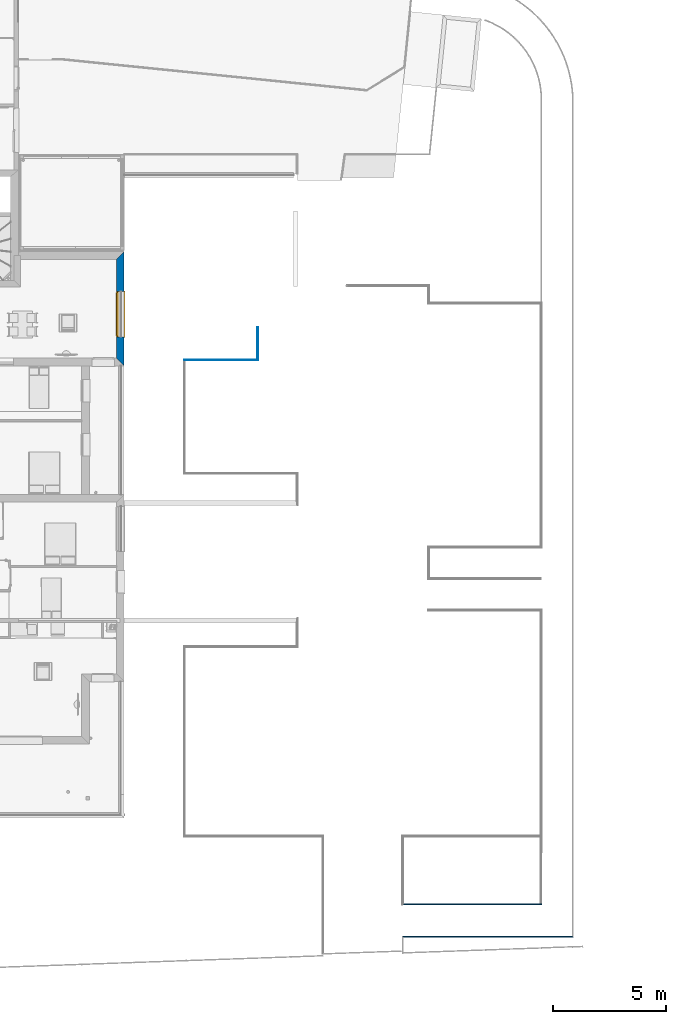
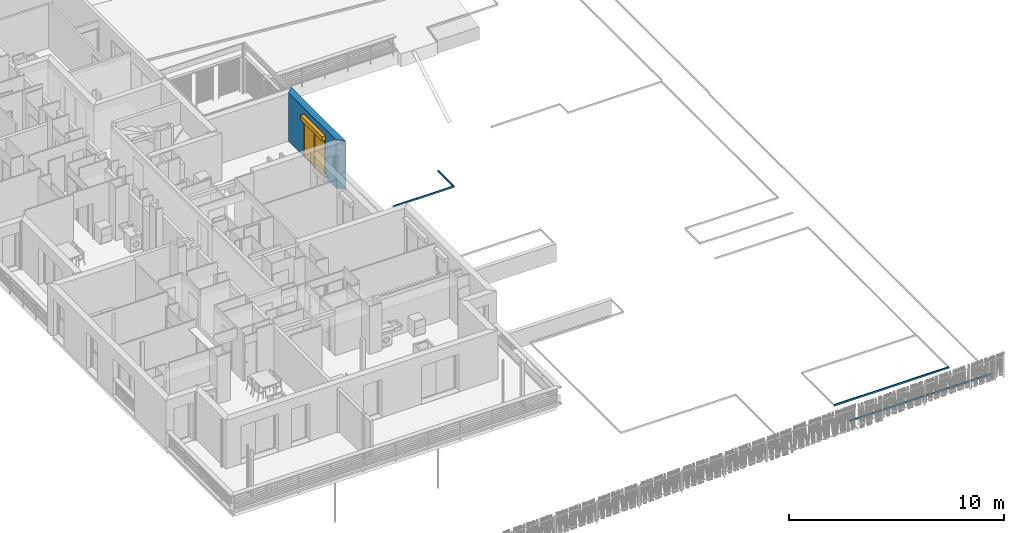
# One storey, part 45 of 171: 5 walls, 1 window, 1 opening.
"""IFC2X3 building model written with IfcOpenShell, lengths in millimetres."""

import ifcopenshell
import ifcopenshell.guid

model = None  # the IFC model being written
_history = None  # IfcOwnerHistory: only IFC2X3 demands one
_inside = {}  # id of a spatial element -> (the spatial element, [elements in it])
_under = {}  # id of a project, library or spatial element -> (it, [spatial elements below it])
_declared = {}  # id of a project -> (the project, [libraries it declares])
_typed = {}  # id of a type object -> (the type object, [elements of that type])
_made_of = {}  # id of a material, layer set ... -> (it, [elements and type objects made of it])


def new_model(schema):
    """Start an empty IFC model of exactly this schema.

    Asked for "IFC4X3", IfcOpenShell would pick the latest addendum, in which some entities
    have other attributes; the version numbers below select the first issue.
    IFC2X3 requires an IfcOwnerHistory on every rooted entity: one is made here for all.
    """
    global model, _history
    if schema == "IFC4X3":
        model = ifcopenshell.file(schema_version=(4, 3, 0, 0))
    else:
        model = ifcopenshell.file(schema=schema)
    _inside.clear()
    _under.clear()
    _declared.clear()
    _typed.clear()
    _made_of.clear()
    _history = None
    if model.schema == "IFC2X3":
        org = make("IfcOrganization", Name="unknown")
        user = make(
            "IfcPersonAndOrganization",
            ThePerson=make("IfcPerson", FamilyName="unknown"),
            TheOrganization=org,
        )
        app = make(
            "IfcApplication",
            ApplicationDeveloper=org,
            Version="unknown",
            ApplicationFullName="unknown",
            ApplicationIdentifier="unknown",
        )
        _history = make(
            "IfcOwnerHistory",
            OwningUser=user,
            OwningApplication=app,
            ChangeAction="ADDED",
            CreationDate=0,
        )
    return model


def make(cls, **values):
    """One entity of the class cls with the attributes given. An attribute that is None is left unset."""
    return model.create_entity(
        cls, **{name: value for name, value in values.items() if value is not None}
    )


def entity(cls, *values):
    """Any entity or typed value of the class cls, its attributes in the order of the schema. None: left unset."""
    e = model.create_entity(cls)
    for i, value in enumerate(values):
        if value is not None:
            e[i] = value
    return e


def rooted(cls, **values):
    """An entity with a GlobalId (a new one), such as an element, a storey or a relation."""
    return make(cls, GlobalId=ifcopenshell.guid.new(), OwnerHistory=_history, **values)


def si_unit(unit_type, name, prefix=None):
    """IfcSIUnit, for example si_unit("LENGTHUNIT", "METRE", prefix="MILLI")."""
    return make("IfcSIUnit", UnitType=unit_type, Prefix=prefix, Name=name)


def converted_unit(unit_type, name, factor, base, dimensions=None, offset=None):
    """IfcConversionBasedUnit, such as the inch: factor (a typed value) times the base unit."""
    return make(
        "IfcConversionBasedUnit"
        if offset is None
        else "IfcConversionBasedUnitWithOffset",
        ConversionOffset=offset,
        Dimensions=None
        if dimensions is None
        else entity("IfcDimensionalExponents", *dimensions),
        UnitType=unit_type,
        Name=name,
        ConversionFactor=make(
            "IfcMeasureWithUnit", ValueComponent=factor, UnitComponent=base
        ),
    )


def derived_unit(unit_type, elements):
    """IfcDerivedUnit: a product of units, each with its exponent."""
    return make(
        "IfcDerivedUnit",
        Elements=[
            make("IfcDerivedUnitElement", Unit=unit, Exponent=power)
            for unit, power in elements
        ],
        UnitType=unit_type,
    )


def money_unit(currency):
    """IfcMonetaryUnit."""
    return make("IfcMonetaryUnit", Currency=currency)


def assignment(units):
    """IfcUnitAssignment: the units of a project."""
    return None if units is None else make("IfcUnitAssignment", Units=units)


def point(xyz):
    """IfcCartesianPoint."""
    return None if xyz is None else make("IfcCartesianPoint", Coordinates=xyz)


def direction(xyz):
    """IfcDirection."""
    return None if xyz is None else make("IfcDirection", DirectionRatios=xyz)


def frame(location, z_axis=None, x_axis=None):
    """IfcAxis2Placement3D, a coordinate frame: its origin and axes. An axis left out is left unset."""
    return make(
        "IfcAxis2Placement3D",
        Location=point(location),
        Axis=direction(z_axis),
        RefDirection=direction(x_axis),
    )


def origin_with_axes():
    """The frame at (0, 0, 0) with the z axis (0, 0, 1) and the x axis (1, 0, 0) written out."""
    return frame((0.0, 0.0, 0.0), z_axis=(0.0, 0.0, 1.0), x_axis=(1.0, 0.0, 0.0))


def place(relative_to, where):
    """IfcLocalPlacement: puts the frame where relative to a parent placement (None: the world)."""
    return make(
        "IfcLocalPlacement", PlacementRelTo=relative_to, RelativePlacement=where
    )


def context(
    kind, dimensions, precision=None, world=None, true_north=None, identifier=None
):
    """IfcGeometricRepresentationContext, for example the 3D "Model" context."""
    return make(
        "IfcGeometricRepresentationContext",
        ContextIdentifier=identifier,
        ContextType=kind,
        CoordinateSpaceDimension=dimensions,
        Precision=precision,
        WorldCoordinateSystem=world,
        TrueNorth=true_north,
    )


def subcontext(parent, identifier, kind, view, scale=None):
    """IfcGeometricRepresentationSubContext, for example "Body" below "Model"."""
    return make(
        "IfcGeometricRepresentationSubContext",
        ContextIdentifier=identifier,
        ContextType=kind,
        ParentContext=parent,
        TargetScale=scale,
        TargetView=view,
    )


def project(units=None, contexts=None):
    """IfcProject with its units and contexts."""
    return rooted(
        "IfcProject",
        Name="project",
        RepresentationContexts=contexts,
        UnitsInContext=assignment(units),
    )


def spatial(cls, under=None, at=None, **own):
    """A site, building, storey or space (cls), placed at a placement, below another one or the project."""
    s = rooted(cls, ObjectPlacement=at, **own)
    if under is not None:
        _under.setdefault(under.id(), (under, []))[1].append(s)
    return s


def polyline(points):
    """IfcPolyline through the points."""
    return make("IfcPolyline", Points=[point(p) for p in points])


def outline(outer, holes=None, kind="AREA"):
    """IfcArbitraryClosedProfileDef: a profile drawn as a closed curve; with holes, ...WithVoids."""
    if holes is None:
        return make("IfcArbitraryClosedProfileDef", ProfileType=kind, OuterCurve=outer)
    return make(
        "IfcArbitraryProfileDefWithVoids",
        ProfileType=kind,
        OuterCurve=outer,
        InnerCurves=holes,
    )


def extrude(swept, where, along, depth):
    """IfcExtrudedAreaSolid: the profile swept, set in the frame where, extruded along a direction by depth."""
    return make(
        "IfcExtrudedAreaSolid",
        SweptArea=swept,
        Position=where,
        ExtrudedDirection=direction(along),
        Depth=depth,
    )


def faces_of(points, faces, orient=None, outer=None):
    """IfcFace entities. A face is a list of loops; a loop is a list of indices into points, from 0.

    orient and outer hold one flag for each loop. By default every Orientation is true, the
    first loop of a face is its IfcFaceOuterBound and the others are IfcFaceBound.
    """
    made = []
    for i, loops in enumerate(faces):
        bounds = []
        for j, loop in enumerate(loops):
            is_outer = j == 0 if outer is None else outer[i][j]
            bounds.append(
                make(
                    "IfcFaceOuterBound" if is_outer else "IfcFaceBound",
                    Bound=make("IfcPolyLoop", Polygon=[points[k] for k in loop]),
                    Orientation=True if orient is None else orient[i][j],
                )
            )
        made.append(make("IfcFace", Bounds=bounds))
    return made


def open_shell(faces, orient=None, outer=None):
    """The faces of one IfcOpenShell. surface_model builds it on its shared points."""
    return ("IfcOpenShell", faces, orient, outer)


def faceted_brep(points, faces, orient=None, outer=None, voids=None):
    """IfcFacetedBrep: a solid bounded by flat faces; with voids (closed shells), ...WithVoids."""
    shared = [point(p) for p in points]
    hull = make("IfcClosedShell", CfsFaces=faces_of(shared, faces, orient, outer))
    if voids is None:
        return make("IfcFacetedBrep", Outer=hull)
    return make(
        "IfcFacetedBrepWithVoids",
        Outer=hull,
        Voids=[
            make(cls, CfsFaces=faces_of(shared, fs, o, b)) for cls, fs, o, b in voids
        ],
    )


def surface_model(cls, points, shells):
    """IfcFaceBasedSurfaceModel or IfcShellBasedSurfaceModel (cls): surfaces that need not close."""
    shared = [point(p) for p in points]
    made = [make(c, CfsFaces=faces_of(shared, fs, o, b)) for c, fs, o, b in shells]
    if cls == "IfcFaceBasedSurfaceModel":
        return make(cls, FbsmFaces=made)
    return make(cls, SbsmBoundary=made)


def shape(context_of_items, identifier, shape_type, items):
    """IfcShapeRepresentation: the items that make up one representation, for example the "Body"."""
    return make(
        "IfcShapeRepresentation",
        ContextOfItems=context_of_items,
        RepresentationIdentifier=identifier,
        RepresentationType=shape_type,
        Items=items,
    )


def source(mapping_origin, context_of_items, identifier, shape_type, items):
    """IfcRepresentationMap: a shape defined once, which mapped items show again and again."""
    return make(
        "IfcRepresentationMap",
        MappingOrigin=mapping_origin,
        MappedRepresentation=shape(context_of_items, identifier, shape_type, items),
    )


def transform(
    local_origin,
    x_axis=None,
    y_axis=None,
    z_axis=None,
    scale=None,
    scale2=None,
    scale3=None,
    uniform=True,
):
    """IfcCartesianTransformationOperator3D, or its non-uniform kind. x_axis, y_axis, z_axis: its Axis1, 2, 3."""
    if uniform:
        return make(
            "IfcCartesianTransformationOperator3D",
            Axis1=direction(x_axis),
            Axis2=direction(y_axis),
            LocalOrigin=point(local_origin),
            Scale=scale,
            Axis3=direction(z_axis),
        )
    return make(
        "IfcCartesianTransformationOperator3DnonUniform",
        Axis1=direction(x_axis),
        Axis2=direction(y_axis),
        LocalOrigin=point(local_origin),
        Scale=scale,
        Axis3=direction(z_axis),
        Scale2=scale2,
        Scale3=scale3,
    )


def mapped(mapping_source, mapping_target):
    """IfcMappedItem: shows the shape of a source again, moved by a transform."""
    return make(
        "IfcMappedItem", MappingSource=mapping_source, MappingTarget=mapping_target
    )


def material(Name=None, Category=None):
    """IfcMaterial."""
    return make("IfcMaterial", Name=Name, Category=Category)


def layer(
    of_material, thickness, ventilated=None, Name=None, Category=None, Priority=None
):
    """IfcMaterialLayer: one layer of a wall or slab, of a material (None: an air gap)."""
    return make(
        "IfcMaterialLayer",
        Material=of_material,
        LayerThickness=thickness,
        IsVentilated=ventilated,
        Name=Name,
        Category=Category,
        Priority=Priority,
    )


def layer_set(layers, Name=None):
    """IfcMaterialLayerSet."""
    return make("IfcMaterialLayerSet", MaterialLayers=layers, LayerSetName=Name)


def layer_usage(for_layer_set, set_direction, sense, offset, extent=None):
    """IfcMaterialLayerSetUsage: how a layer set lies in its element."""
    return make(
        "IfcMaterialLayerSetUsage",
        ForLayerSet=for_layer_set,
        LayerSetDirection=set_direction,
        DirectionSense=sense,
        OffsetFromReferenceLine=offset,
        ReferenceExtent=extent,
    )


def made_of(thing, what):
    """Note that an element or type object is made of a material, layer set ...; save() writes the relation."""
    if what is not None:
        _made_of.setdefault(what.id(), (what, []))[1].append(thing)
    return thing


def type_object(cls, material=None, **own):
    """A type object (cls), such as IfcWallType, which elements share."""
    return made_of(rooted(cls, **own), material)


def element(
    cls,
    number,
    at=None,
    inside=None,
    cuts=None,
    type_object=None,
    material=None,
    context=None,
    identifier="Body",
    shape_type=None,
    held_by="IfcProductDefinitionShape",
    body=None,
    shapes=None,
    **own,
):
    """One element of the class cls, such as IfcWall. Its Tag is "e" and its number.

    at: its placement. inside: the storey or other place that contains it. cuts: it is an
    opening in that element (IfcRelVoidsElement). A single representation is given by context,
    identifier, shape_type and body (its items); several are given by shapes. held_by: the class
    of the entity that holds the representations. save() writes the other relations.
    """
    e = rooted(cls, Tag="e%d" % number, ObjectPlacement=at, **own)
    if body is not None:
        shapes = [shape(context, identifier, shape_type, body)]
    if shapes is not None:
        e.Representation = make(held_by, Representations=shapes)
    if inside is not None:
        _inside.setdefault(inside.id(), (inside, []))[1].append(e)
    if cuts is not None:
        rooted(
            "IfcRelVoidsElement", RelatingBuildingElement=cuts, RelatedOpeningElement=e
        )
    if type_object is not None:
        _typed.setdefault(type_object.id(), (type_object, []))[1].append(e)
    return made_of(e, material)


def fill(opening, filler):
    """IfcRelFillsElement: the door or window that sits in an opening."""
    return rooted(
        "IfcRelFillsElement",
        RelatingOpeningElement=opening,
        RelatedBuildingElement=filler,
    )


def aggregate(whole, parts):
    """IfcRelAggregates: a whole, such as a stair, and the parts it consists of."""
    return rooted("IfcRelAggregates", RelatingObject=whole, RelatedObjects=parts)


def save(model, path):
    """Write the relations noted so far, then the file.

    IfcRelAggregates (storeys below a building ...), IfcRelContainedInSpatialStructure (elements
    in a storey), IfcRelDefinesByType, IfcRelAssociatesMaterial and IfcRelDeclares: one each for
    every whole, place, type object, material and project.
    """
    for whole, parts in _under.values():
        aggregate(whole, parts)
    for where, things in _inside.values():
        rooted(
            "IfcRelContainedInSpatialStructure",
            RelatedElements=things,
            RelatingStructure=where,
        )
    for kind, things in _typed.values():
        rooted("IfcRelDefinesByType", RelatedObjects=things, RelatingType=kind)
    for what, things in _made_of.values():
        rooted("IfcRelAssociatesMaterial", RelatedObjects=things, RelatingMaterial=what)
    for by, libraries in _declared.values():
        rooted("IfcRelDeclares", RelatingContext=by, RelatedDefinitions=libraries)
    model.write(path)


model = new_model("IFC2X3")

# Units and contexts
model_context = context("Model", 3, precision=0.01, world=origin_with_axes(), true_north=direction((0.0, 1.0)))
body_context = subcontext(model_context, "Body", "Model", "MODEL_VIEW")
ifc_project = project(units=[si_unit("LENGTHUNIT", "METRE", prefix="MILLI"), si_unit("AREAUNIT", "SQUARE_METRE"), si_unit("VOLUMEUNIT", "CUBIC_METRE"), converted_unit("PLANEANGLEUNIT", "DEGREE", entity("IfcPlaneAngleMeasure", 0.0174532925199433), si_unit("PLANEANGLEUNIT", "RADIAN"), dimensions=[0, 0, 0, 0, 0, 0, 0]), money_unit("USD"), converted_unit("TIMEUNIT", "Year", entity("IfcTimeMeasure", 31557600.0), si_unit("TIMEUNIT", "SECOND"), dimensions=[0, 0, 1, 0, 0, 0, 0]), si_unit("MASSUNIT", "GRAM", prefix="KILO"), si_unit("THERMODYNAMICTEMPERATUREUNIT", "DEGREE_CELSIUS"), si_unit("LUMINOUSINTENSITYUNIT", "LUMEN"), si_unit("ENERGYUNIT", "JOULE", prefix="MEGA"), derived_unit("THERMALCONDUCTANCEUNIT", [(si_unit("POWERUNIT", "WATT"), 1), (si_unit("LENGTHUNIT", "METRE"), -1), (si_unit("THERMODYNAMICTEMPERATUREUNIT", "KELVIN"), -1)]), derived_unit("SPECIFICHEATCAPACITYUNIT", [(si_unit("ENERGYUNIT", "JOULE"), 1), (si_unit("MASSUNIT", "GRAM", prefix="KILO"), -1), (si_unit("THERMODYNAMICTEMPERATUREUNIT", "KELVIN"), -1)]), derived_unit("MASSDENSITYUNIT", [(si_unit("MASSUNIT", "GRAM", prefix="KILO"), 1), (si_unit("VOLUMEUNIT", "CUBIC_METRE"), -1)])], contexts=[model_context])

# Site, building, storey
site_placement = place(None, origin_with_axes())
site = spatial("IfcSite", under=ifc_project, at=site_placement, Name="Site", CompositionType="ELEMENT")
building_placement = place(site_placement, origin_with_axes())
building = spatial("IfcBuilding", under=site, at=building_placement, Name="Bâtiment", CompositionType="ELEMENT")
storey_placement = place(building_placement, frame((0.0, 0.0, 3000.0), z_axis=(0.0, 0.0, 1.0), x_axis=(1.0, 0.0, 0.0)))
storey = spatial("IfcBuildingStorey", under=building, at=storey_placement, Name="rdc", CompositionType="ELEMENT", Elevation=3000.0)

# Walls
ifc_material_1 = material(Name="Hachure solide 268963992")
ifc_layer_1 = layer(ifc_material_1, 50.0, ventilated="UNKNOWN")
ifc_layer_set_1 = layer_set([ifc_layer_1], Name="Cloison 50")
ifc_layer_usage_1 = layer_usage(ifc_layer_set_1, "AXIS2", "NEGATIVE", 0.0)
wall_type_1 = type_object("IfcWallType", Name="Cloison 50 50", PredefinedType="NOTDEFINED")
wall_1_placement = place(storey_placement, frame((2252896.657583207, -664952.7055840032, -2100.0), z_axis=(0.0, 0.0, 1.0), x_axis=(-1.0, 0.0, 0.0)))
element("IfcWallStandardCase", 1, at=wall_1_placement, inside=storey, type_object=wall_type_1, material=ifc_layer_usage_1, Name="Mur-161", context=body_context, shape_type="SweptSolid", body=[
    extrude(outline(polyline([(0.0, -49.99999999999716), (6149.999999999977, -49.99999999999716), (6189.999999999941, 0.0), (0.0, 0.0), (0.0, -49.99999999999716)])), origin_with_axes(), (0.0, 0.0, 1.0), 100.0),
])
ifc_layer_usage_2 = layer_usage(ifc_layer_set_1, "AXIS2", "POSITIVE", 0.0)
wall_2_placement = place(storey_placement, frame((2254254.781974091, -666352.7055840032, -2100.0), z_axis=(0.0, 0.0, 1.0), x_axis=(-1.0, 0.0, 0.0)))
element("IfcWallStandardCase", 2, at=wall_2_placement, inside=storey, type_object=wall_type_1, material=ifc_layer_usage_2, Name="Mur-161", context=body_context, shape_type="SweptSolid", body=[
    extrude(outline(polyline([(0.0, 0.0), (7548.1243908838, 0.0), (7498.000234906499, 49.99999999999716), (-49.99640534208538, 49.99999999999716), (0.0, 0.0)])), origin_with_axes(), (0.0, 0.0, 1.0), 100.0),
])

# Wall, opening, window
ifc_material_2 = material(Name="Parpaing 312445824")
ifc_layer_2 = layer(ifc_material_2, 180.0, ventilated="UNKNOWN")
ifc_material_3 = material(Name="Isolant styromousse 301821074")
ifc_layer_3 = layer(ifc_material_3, 160.0, ventilated="UNKNOWN")
ifc_layer_set_2 = layer_set([ifc_layer_2, ifc_layer_3], Name="isol int 18+16 0018356637")
ifc_layer_usage_3 = layer_usage(ifc_layer_set_2, "AXIS2", "POSITIVE", 0.0)
wall_type_2 = type_object("IfcWallType", Name="isol int 18+16 0018356637 340", PredefinedType="NOTDEFINED")
wall_3_placement = place(storey_placement, frame((2234356.67129536, -641025.3255383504, 0.0), z_axis=(0.0, 0.0, 1.0), x_axis=(3.063414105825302e-10, 1.0, 0.0)))
wall_3 = element("IfcWallStandardCase", 3, at=wall_3_placement, inside=storey, type_object=wall_type_2, material=ifc_layer_usage_3, Name="Mur-144", context=body_context, shape_type="SweptSolid", body=[
    extrude(outline(polyline([(0.0, 0.0), (5071.981643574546, 0.0), (4731.981643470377, 339.9999999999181), (339.9999998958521, 340.0000000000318), (0.0, 0.0)])), origin_with_axes(), (0.0, 0.0, 1.0), 2750.0),
])
opening_placement = place(wall_3_placement, frame((2292.720760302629, 1.13686837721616e-10, 49.99999999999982), z_axis=(0.0, 0.0, 1.0), x_axis=(1.0, 0.0, 0.0)))
opening = element("IfcOpeningElement", 4, at=opening_placement, cuts=wall_3, Name="Fen-207", context=body_context, shape_type="Brep", body=[
    faceted_brep([(999.9999999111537, 290.0000010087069, 2100.0), (999.9999999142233, 280.000001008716, 2100.0), (1000.000000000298, -1.00000054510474, 2100.0), (1000.000000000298, -1.00000054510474, 0.0), (999.9999999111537, 290.0000010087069, 0.0), (999.999999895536, 341.0000010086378, 2100.0), (999.999999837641, 530.000001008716, 2100.0), (999.999999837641, 530.000001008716, 2350.0), (999.9999999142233, 280.000001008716, 2350.0), (-1000.000000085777, 280.0000003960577, 2100.0), (-999.9999999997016, -1.000001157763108, 2100.0), (-999.9999999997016, -1.000001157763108, 0.0), (-1000.000000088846, 290.0000003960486, 0.0), (-1000.000000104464, 341.0000003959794, 0.0), (999.999999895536, 341.0000010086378, 0.0), (-1000.000000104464, 341.0000003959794, 2100.0), (-1000.000000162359, 530.0000003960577, 2100.0), (-1000.000000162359, 530.0000003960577, 2350.0), (-1000.000000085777, 280.0000003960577, 2350.0), (-1000.000000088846, 290.0000003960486, 2100.0)], [[[0, 1, 2, 3, 4]], [[1, 0, 5, 6, 7, 8]], [[1, 9, 10, 2]], [[10, 11, 3, 2]], [[4, 3, 11, 12, 13, 14]], [[5, 0, 4, 14]], [[5, 15, 16, 6]], [[7, 6, 16, 17]], [[8, 7, 17, 18]], [[9, 1, 8, 18]], [[9, 19, 12, 11, 10]], [[19, 15, 13, 12]], [[15, 5, 14, 13]], [[19, 9, 18, 17, 16, 15]]]),
])
window_style = type_object("IfcWindowStyle", Name="Fenêtre châssis double variable 27", ConstructionType="NOTDEFINED", OperationType="DOUBLE_PANEL_VERTICAL", ParameterTakesPrecedence=False, Sizeable=False)
shared_shape = source(origin_with_axes(), body_context, "Body", "SurfaceModel", [
    surface_model("IfcShellBasedSurfaceModel", [(1000.0, -51.00000000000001, 40.00000000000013), (1000.0, -51.00000000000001, 50.00000000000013), (-1000.0, -51.00000000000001, 50.0), (-1000.0, -51.00000000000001, 40.0), (1030.0, -369.9999999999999, 28.96551724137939), (1030.0, -339.9999999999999, 30.00324289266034), (1000.0, -339.9999999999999, 30.00324289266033), (-1000.0, -339.9999999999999, 30.00324289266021), (-1030.0, -339.9999999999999, 30.00324289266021), (-1030.0, -369.9999999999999, 28.96551724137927), (1030.0, -369.9999999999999, 8.965517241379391), (-1030.0, -369.9999999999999, 8.965517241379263), (1030.0, -359.9999999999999, 18.96551724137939), (-1030.0, -359.9999999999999, 18.96551724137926)], [open_shell([[[0, 1, 2, 3]], [[4, 5, 6, 0, 3, 7, 8, 9]], [[10, 4, 9, 11]], [[12, 10, 11, 13]]])]),
    faceted_brep([(-1000.0, -60.00000000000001, 2350.0), (-997.0, -60.00000000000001, 2350.0), (-997.0, 190.0, 2350.0), (-1000.0, 190.0, 2350.0), (-1000.0, -60.00000000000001, 2100.0), (-997.0, -60.00000000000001, 2100.0), (-997.0, 190.0, 2100.0), (-1000.0, 190.0, 2100.0)], [[[0, 1, 2, 3]], [[4, 5, 1, 0]], [[1, 5, 6, 2]], [[3, 2, 6, 7]], [[0, 3, 7, 4]], [[7, 6, 5, 4]]]),
    faceted_brep([(997.0000000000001, -59.99999999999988, 2350.0), (1000.0, -59.99999999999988, 2350.0), (1000.0, 190.0000000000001, 2350.0), (997.0000000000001, 190.0000000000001, 2350.0), (997.0000000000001, -59.99999999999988, 2100.0), (1000.0, -59.99999999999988, 2100.0), (1000.0, 190.0000000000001, 2100.0), (997.0000000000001, 190.0000000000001, 2100.0)], [[[0, 1, 2, 3]], [[4, 5, 1, 0]], [[1, 5, 6, 2]], [[3, 2, 6, 7]], [[0, 3, 7, 4]], [[7, 6, 5, 4]]]),
    faceted_brep([(-997.0, -60.0, 2100.0), (997.0, -59.99999999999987, 2100.0), (997.0, -59.99999999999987, 2350.0), (-997.0, -60.0, 2350.0), (-997.0, -56.99999999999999, 2100.0), (997.0, -56.99999999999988, 2100.0), (997.0, -56.99999999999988, 2347.0), (997.0, 187.0000000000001, 2347.0), (997.0, 187.0000000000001, 2103.0), (997.0, -37.99999999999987, 2103.0), (997.0, -37.99999999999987, 2100.0), (997.0, 190.0000000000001, 2100.0), (997.0, 190.0000000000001, 2350.0), (-997.0, 190.0, 2350.0), (-997.0, 190.0, 2100.0), (-997.0, -37.99999999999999, 2100.0), (-997.0, -37.99999999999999, 2103.0), (-997.0, 187.0, 2103.0), (-997.0, 187.0, 2347.0), (-997.0, -56.99999999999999, 2347.0)], [[[0, 1, 2, 3]], [[4, 5, 1, 0]], [[1, 5, 6, 7, 8, 9, 10, 11, 12, 2]], [[3, 2, 12, 13]], [[0, 3, 13, 14, 15, 16, 17, 18, 19, 4]], [[19, 6, 5, 4]], [[18, 7, 6, 19]], [[17, 8, 7, 18]], [[16, 9, 8, 17]], [[15, 10, 9, 16]], [[14, 11, 10, 15]], [[13, 12, 11, 14]]]),
    faceted_brep([(-994.0, -40.37442957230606, 2206.419644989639), (-994.0, -41.99999999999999, 2225.0), (-994.0, -40.37442957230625, 2243.580355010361), (-994.0, -35.54711042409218, 2261.596155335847), (-994.0, -27.66471820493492, 2278.5), (-994.0, -16.96675541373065, 2293.77827423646), (-994.0, -3.778274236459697, 2306.966755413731), (-994.0, 11.5, 2317.664718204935), (-994.0, 28.40384466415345, 2325.547110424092), (-994.0, 46.41964498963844, 2330.374429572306), (-994.0, 64.99999999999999, 2332.0), (-994.0, 83.58035501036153, 2330.374429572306), (-994.0, 101.5961553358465, 2325.547110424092), (-994.0, 118.5, 2317.664718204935), (-994.0, 133.7782742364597, 2306.966755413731), (-994.0, 146.9667554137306, 2293.77827423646), (-994.0, 157.6647182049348, 2278.5), (-994.0, 165.5471104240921, 2261.596155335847), (-994.0, 170.3744295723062, 2243.580355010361), (-994.0, 171.9999999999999, 2225.0), (-994.0, 170.3744295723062, 2206.419644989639), (-994.0, 165.5471104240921, 2188.403844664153), (-994.0, 157.6647182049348, 2171.5), (-994.0, 146.9667554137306, 2156.22172576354), (-994.0, 133.7782742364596, 2143.03324458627), (-994.0, 118.4999999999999, 2132.335281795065), (-994.0, 101.5961553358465, 2124.452889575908), (-994.0, 83.58035501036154, 2119.625570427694), (-994.0, 65.00000000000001, 2118.0), (-994.0, 46.4196449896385, 2119.625570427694), (-994.0, 28.40384466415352, 2124.452889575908), (-994.0, 11.50000000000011, 2132.335281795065), (-994.0, -3.778274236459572, 2143.03324458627), (-994.0, -16.9667554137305, 2156.22172576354), (-994.0, -27.66471820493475, 2171.5), (-994.0, -35.54711042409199, 2188.403844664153), (994.0, -40.37442957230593, 2206.419644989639), (994.0, -41.99999999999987, 2225.0), (994.0, -40.37442957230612, 2243.580355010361), (994.0, -35.54711042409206, 2261.596155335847), (994.0, -27.6647182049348, 2278.5), (994.0, -16.96675541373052, 2293.77827423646), (994.0, -3.778274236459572, 2306.966755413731), (994.0, 11.50000000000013, 2317.664718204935), (994.0, 28.40384466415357, 2325.547110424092), (994.0, 46.41964498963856, 2330.374429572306), (994.0, 65.00000000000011, 2332.0), (994.0, 83.58035501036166, 2330.374429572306), (994.0, 101.5961553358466, 2325.547110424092), (994.0, 118.5000000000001, 2317.664718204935), (994.0, 133.7782742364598, 2306.966755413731), (994.0, 146.9667554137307, 2293.77827423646), (994.0, 157.664718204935, 2278.5), (994.0, 165.5471104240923, 2261.596155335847), (994.0, 170.3744295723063, 2243.580355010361), (994.0, 172.0, 2225.0), (994.0, 170.3744295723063, 2206.419644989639), (994.0, 165.5471104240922, 2188.403844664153), (994.0, 157.6647182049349, 2171.5), (994.0, 146.9667554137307, 2156.22172576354), (994.0, 133.7782742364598, 2143.03324458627), (994.0, 118.5000000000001, 2132.335281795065), (994.0, 101.5961553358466, 2124.452889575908), (994.0, 83.58035501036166, 2119.625570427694), (994.0, 65.00000000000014, 2118.0), (994.0, 46.41964498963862, 2119.625570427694), (994.0, 28.40384466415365, 2124.452889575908), (994.0, 11.50000000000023, 2132.335281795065), (994.0, -3.778274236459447, 2143.03324458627), (994.0, -16.96675541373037, 2156.22172576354), (994.0, -27.66471820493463, 2171.5), (994.0, -35.54711042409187, 2188.403844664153)], [[[0, 1, 2, 3, 4, 5, 6, 7, 8, 9, 10, 11, 12, 13, 14, 15, 16, 17, 18, 19, 20, 21, 22, 23, 24, 25, 26, 27, 28, 29, 30, 31, 32, 33, 34, 35]], [[0, 36, 37, 1]], [[1, 37, 38, 2]], [[2, 38, 39, 3]], [[3, 39, 40, 4]], [[4, 40, 41, 5]], [[5, 41, 42, 6]], [[6, 42, 43, 7]], [[7, 43, 44, 8]], [[8, 44, 45, 9]], [[9, 45, 46, 10]], [[10, 46, 47, 11]], [[11, 47, 48, 12]], [[12, 48, 49, 13]], [[13, 49, 50, 14]], [[14, 50, 51, 15]], [[15, 51, 52, 16]], [[16, 52, 53, 17]], [[17, 53, 54, 18]], [[18, 54, 55, 19]], [[19, 55, 56, 20]], [[20, 56, 57, 21]], [[21, 57, 58, 22]], [[22, 58, 59, 23]], [[23, 59, 60, 24]], [[24, 60, 61, 25]], [[25, 61, 62, 26]], [[26, 62, 63, 27]], [[27, 63, 64, 28]], [[28, 64, 65, 29]], [[29, 65, 66, 30]], [[30, 66, 67, 31]], [[31, 67, 68, 32]], [[32, 68, 69, 33]], [[33, 69, 70, 34]], [[34, 70, 71, 35]], [[35, 71, 36, 0]], [[36, 71, 70, 69, 68, 67, 66, 65, 64, 63, 62, 61, 60, 59, 58, 57, 56, 55, 54, 53, 52, 51, 50, 49, 48, 47, 46, 45, 44, 43, 42, 41, 40, 39, 38, 37]]]),
    faceted_brep([(1000.0, -34.99999999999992, 30.0), (1000.0, -34.99999999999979, 2100.0), (1000.0, -59.99999999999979, 2100.0), (1000.0, -59.99999999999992, 30.0), (975.0, -34.99999999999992, 30.0), (975.0, -34.99999999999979, 2100.0), (975.0, -37.99999999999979, 2100.0), (997.0, -37.99999999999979, 2100.0), (997.0, -56.99999999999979, 2100.0), (975.0, -56.99999999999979, 2100.0), (975.0, -59.99999999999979, 2100.0), (975.0, -59.99999999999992, 30.0), (975.0, -56.99999999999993, 30.0), (997.0, -56.99999999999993, 30.0), (997.0, -37.99999999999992, 30.0), (975.0, -37.99999999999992, 30.0)], [[[0, 1, 2, 3]], [[4, 5, 1, 0]], [[1, 5, 6, 7, 8, 9, 10, 2]], [[3, 2, 10, 11]], [[0, 3, 11, 12, 13, 14, 15, 4]], [[15, 6, 5, 4]], [[14, 7, 6, 15]], [[13, 8, 7, 14]], [[12, 9, 8, 13]], [[11, 10, 9, 12]]]),
    faceted_brep([(-1000.0, -34.99999999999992, 30.0), (-1000.0, -59.99999999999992, 30.0), (-1000.0, -59.99999999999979, 2100.0), (-1000.0, -34.99999999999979, 2100.0), (-975.0, -34.99999999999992, 30.0), (-975.0, -37.99999999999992, 30.0), (-997.0, -37.99999999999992, 30.0), (-997.0, -56.99999999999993, 30.0), (-975.0, -56.99999999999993, 30.0), (-975.0, -59.99999999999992, 30.0), (-975.0, -59.99999999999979, 2100.0), (-975.0, -56.99999999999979, 2100.0), (-997.0, -56.99999999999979, 2100.0), (-997.0, -37.99999999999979, 2100.0), (-975.0, -37.99999999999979, 2100.0), (-975.0, -34.99999999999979, 2100.0)], [[[0, 1, 2, 3]], [[0, 4, 5, 6, 7, 8, 9, 1]], [[1, 9, 10, 2]], [[3, 2, 10, 11, 12, 13, 14, 15]], [[4, 0, 3, 15]], [[5, 4, 15, 14]], [[6, 5, 14, 13]], [[7, 6, 13, 12]], [[8, 7, 12, 11]], [[9, 8, 11, 10]]]),
    faceted_brep([(997.0, -46.66666666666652, 2225.0), (997.0, -46.66666666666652, 2216.666666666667), (-997.0, -46.66666666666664, 2216.666666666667), (-997.0, -46.66666666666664, 2225.0), (997.0, -51.66666666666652, 2225.0), (997.0, -51.66666666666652, 2216.666666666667), (997.0, -49.99999999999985, 2200.0), (997.0, -44.99999999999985, 2200.0), (-997.0, -44.99999999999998, 2200.0), (-997.0, -49.99999999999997, 2200.0), (-997.0, -51.66666666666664, 2216.666666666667), (-997.0, -51.66666666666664, 2225.0)], [[[0, 1, 2, 3]], [[4, 5, 6, 7, 1, 0]], [[2, 1, 7, 8]], [[3, 2, 8, 9, 10, 11]], [[3, 11, 4, 0]], [[10, 5, 4, 11]], [[9, 6, 5, 10]], [[8, 7, 6, 9]]]),
    faceted_brep([(-997.0, -44.99999999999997, 2200.0), (997.0, -44.99999999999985, 2200.0), (997.0, -46.66666666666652, 2183.333333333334), (-997.0, -46.66666666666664, 2183.333333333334), (-997.0, -49.99999999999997, 2200.0), (997.0, -49.99999999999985, 2200.0), (997.0, -51.66666666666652, 2183.333333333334), (997.0, -51.66666666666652, 2166.666666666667), (997.0, -49.99999999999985, 2150.000000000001), (997.0, -44.99999999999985, 2150.000000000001), (997.0, -46.66666666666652, 2166.666666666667), (-997.0, -46.66666666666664, 2166.666666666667), (-997.0, -44.99999999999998, 2150.000000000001), (-997.0, -49.99999999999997, 2150.000000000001), (-997.0, -51.66666666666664, 2166.666666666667), (-997.0, -51.66666666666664, 2183.333333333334)], [[[0, 1, 2, 3]], [[4, 5, 1, 0]], [[1, 5, 6, 7, 8, 9, 10, 2]], [[3, 2, 10, 11]], [[0, 3, 11, 12, 13, 14, 15, 4]], [[15, 6, 5, 4]], [[14, 7, 6, 15]], [[13, 8, 7, 14]], [[12, 9, 8, 13]], [[11, 10, 9, 12]]]),
    faceted_brep([(-997.0, -44.99999999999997, 2150.000000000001), (997.0, -44.99999999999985, 2150.000000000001), (997.0, -46.66666666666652, 2133.333333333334), (-997.0, -46.66666666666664, 2133.333333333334), (-997.0, -49.99999999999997, 2150.000000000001), (997.0, -49.99999999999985, 2150.000000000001), (997.0, -51.66666666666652, 2133.333333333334), (997.0, -51.66666666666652, 2116.666666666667), (997.0, -49.99999999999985, 2100.000000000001), (997.0, -44.99999999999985, 2100.000000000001), (997.0, -46.66666666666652, 2116.666666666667), (-997.0, -46.66666666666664, 2116.666666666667), (-997.0, -44.99999999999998, 2100.000000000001), (-997.0, -49.99999999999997, 2100.000000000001), (-997.0, -51.66666666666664, 2116.666666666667), (-997.0, -51.66666666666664, 2133.333333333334)], [[[0, 1, 2, 3]], [[4, 5, 1, 0]], [[1, 5, 6, 7, 8, 9, 10, 2]], [[3, 2, 10, 11]], [[0, 3, 11, 12, 13, 14, 15, 4]], [[15, 6, 5, 4]], [[14, 7, 6, 15]], [[13, 8, 7, 14]], [[12, 9, 8, 13]], [[11, 10, 9, 12]]]),
    faceted_brep([(-975.0, 0.0, 2050.0), (-1000.0, 0.0, 2050.0), (-1000.0, -50.00000000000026, 2050.0), (-950.0, -50.00000000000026, 2050.0), (-950.0, -25.00000000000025, 2050.0), (-975.0, -25.00000000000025, 2050.0), (-975.0, 0.0, 50.00000000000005), (-1000.0, 0.0, 50.00000000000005), (-1000.0, -50.00000000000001, 50.00000000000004), (-950.0, -50.00000000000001, 50.00000000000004), (-950.0, -25.00000000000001, 50.00000000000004), (-975.0, -25.00000000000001, 50.00000000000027)], [[[0, 1, 2, 3, 4, 5]], [[6, 7, 1, 0]], [[1, 7, 8, 2]], [[2, 8, 9, 3]], [[4, 3, 9, 10]], [[10, 11, 5, 4]], [[5, 11, 6, 0]], [[11, 10, 9, 8, 7, 6]]]),
    faceted_brep([(950.0, -25.00000000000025, 2050.0), (950.0, -50.00000000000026, 2050.0), (1000.0, -50.00000000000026, 2050.0), (1000.0, 0.0, 2050.0), (975.0, 0.0, 2050.0), (975.0, -25.00000000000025, 2050.0), (950.0, -25.00000000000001, 50.00000000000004), (950.0, -50.00000000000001, 50.00000000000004), (1000.0, -50.00000000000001, 50.00000000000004), (1000.0, 0.0, 50.00000000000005), (975.0, 0.0, 50.00000000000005), (975.0, -25.00000000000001, 50.00000000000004)], [[[0, 1, 2, 3, 4, 5]], [[6, 7, 1, 0]], [[8, 2, 1, 7]], [[9, 3, 2, 8]], [[4, 3, 9, 10]], [[10, 11, 5, 4]], [[5, 11, 6, 0]], [[11, 10, 9, 8, 7, 6]]]),
    faceted_brep([(950.0, -25.00000000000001, 50.00000000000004), (950.0, -50.00000000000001, 50.00000000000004), (1000.0, -50.00000000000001, 50.00000000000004), (1000.0, 0.0, 50.00000000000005), (975.0, 0.0, 50.00000000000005), (975.0, -25.00000000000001, 50.00000000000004), (-950.0, -25.00000000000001, 50.00000000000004), (-950.0, -50.00000000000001, 50.00000000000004), (-1000.0, -50.00000000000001, 50.00000000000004), (-1000.0, -50.0, 0.0), (1000.0, -50.0, 0.0), (1000.0, 0.0, 0.0), (-975.0, 0.0, 24.99999999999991), (975.0, 0.0, 24.99999999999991), (-1000.0, 0.0, 0.0), (-1000.0, 0.0, 50.00000000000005), (-975.0, 0.0, 50.00000000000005), (975.0, -25.0, 24.99999999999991), (-975.0, -25.0, 24.99999999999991), (-975.0, -25.00000000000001, 50.00000000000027)], [[[0, 1, 2, 3, 4, 5]], [[6, 7, 1, 0]], [[8, 9, 10, 2, 1, 7]], [[11, 3, 2, 10]], [[12, 13, 4, 3, 11, 14, 15, 16]], [[13, 17, 5, 4]], [[5, 17, 18, 19, 6, 0]], [[19, 16, 15, 8, 7, 6]], [[15, 14, 9, 8]], [[14, 11, 10, 9]], [[12, 18, 17, 13]], [[19, 18, 12, 16]]]),
    faceted_brep([(-975.0, 0.0, 2050.0), (-1000.0, 0.0, 2050.0), (-1000.0, 0.0, 2100.0), (1000.0, 0.0, 2100.0), (1000.0, 0.0, 2050.0), (975.0, 0.0, 2050.0), (975.0, 0.0, 2075.0), (-975.0, 0.0, 2075.0), (-975.0, -25.00000000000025, 2050.0), (-950.0, -25.00000000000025, 2050.0), (-950.0, -50.00000000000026, 2050.0), (-1000.0, -50.00000000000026, 2050.0), (-1000.0, -50.00000000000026, 2100.0), (1000.0, -50.00000000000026, 2100.0), (1000.0, -50.00000000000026, 2050.0), (975.0, -25.00000000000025, 2050.0), (950.0, -50.00000000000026, 2050.0), (950.0, -25.00000000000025, 2050.0), (975.0, -25.00000000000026, 2075.0), (-975.0, -25.00000000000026, 2075.0)], [[[0, 1, 2, 3, 4, 5, 6, 7]], [[8, 9, 10, 11, 1, 0]], [[2, 1, 11, 12]], [[3, 2, 12, 13]], [[4, 3, 13, 14]], [[15, 5, 4, 14, 16, 17]], [[5, 15, 18, 6]], [[6, 18, 19, 7]], [[7, 19, 8, 0]], [[17, 9, 8, 19, 18, 15]], [[17, 16, 10, 9]], [[14, 13, 12, 11, 10, 16]]]),
    faceted_brep([(-925.0, -25.00000000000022, 2025.0), (-925.0, 24.99999999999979, 2025.0), (-975.0, 24.99999999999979, 2025.0), (-975.0, -25.00000000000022, 2025.0), (-925.0, -24.99999999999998, 75.00000000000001), (-925.0, 25.00000000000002, 75.00000000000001), (-975.0, 25.00000000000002, 75.00000000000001), (-975.0, -24.99999999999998, 75.00000000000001)], [[[0, 1, 2, 3]], [[4, 5, 1, 0]], [[1, 5, 6, 2]], [[3, 2, 6, 7]], [[0, 3, 7, 4]], [[7, 6, 5, 4]]]),
    faceted_brep([(-49.99999999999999, -25.00000000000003, 75.00000000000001), (-49.99999999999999, 24.99999999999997, 75.00000000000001), (0.0, 24.99999999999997, 75.00000000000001), (0.0, -25.00000000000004, 75.00000000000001), (-49.99999999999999, -25.00000000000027, 2025.0), (-49.99999999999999, 24.99999999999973, 2025.0), (0.0, 24.99999999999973, 2025.0), (0.0, -25.00000000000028, 2025.0)], [[[0, 1, 2, 3]], [[4, 5, 1, 0]], [[1, 5, 6, 2]], [[3, 2, 6, 7]], [[0, 3, 7, 4]], [[7, 6, 5, 4]]]),
    faceted_brep([(0.0, -25.00000000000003, 25.0), (0.0, 24.99999999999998, 25.00000000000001), (0.0, 24.99999999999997, 75.00000000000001), (0.0, -25.00000000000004, 75.00000000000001), (-975.0, -24.99999999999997, 25.0), (-975.0, 25.00000000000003, 25.00000000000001), (-975.0, 25.00000000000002, 75.00000000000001), (-925.0, 25.00000000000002, 75.00000000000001), (-49.99999999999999, 24.99999999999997, 75.00000000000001), (-49.99999999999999, -25.00000000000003, 75.00000000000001), (-925.0, -24.99999999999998, 75.00000000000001), (-975.0, -24.99999999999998, 75.00000000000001)], [[[0, 1, 2, 3]], [[4, 5, 1, 0]], [[1, 5, 6, 7, 8, 2]], [[3, 2, 8, 9]], [[0, 3, 9, 10, 11, 4]], [[11, 6, 5, 4]], [[10, 7, 6, 11]], [[9, 8, 7, 10]]]),
    faceted_brep([(-975.0, -25.00000000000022, 2075.0), (-975.0, 24.99999999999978, 2075.0), (-975.0, 24.99999999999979, 2025.0), (-975.0, -25.00000000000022, 2025.0), (0.0, -25.00000000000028, 2075.0), (0.0, 24.99999999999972, 2075.0), (0.0, 24.99999999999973, 2025.0), (-49.99999999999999, 24.99999999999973, 2025.0), (-925.0, 24.99999999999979, 2025.0), (-925.0, -25.00000000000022, 2025.0), (-49.99999999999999, -25.00000000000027, 2025.0), (0.0, -25.00000000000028, 2025.0)], [[[0, 1, 2, 3]], [[4, 5, 1, 0]], [[1, 5, 6, 7, 8, 2]], [[3, 2, 8, 9]], [[0, 3, 9, 10, 11, 4]], [[11, 6, 5, 4]], [[10, 7, 6, 11]], [[9, 8, 7, 10]]]),
    surface_model("IfcShellBasedSurfaceModel", [(-925.0, -10.00000000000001, 75.00000000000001), (-49.99999999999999, -10.00000000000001, 75.00000000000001), (-49.99999999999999, -10.00000000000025, 2025.0), (-925.0, -10.00000000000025, 2025.0)], [open_shell([[[0, 1, 2, 3]]])]),
    surface_model("IfcShellBasedSurfaceModel", [(-925.0, 9.999999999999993, 75.00000000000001), (-925.0, 9.999999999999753, 2025.0), (-49.99999999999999, 9.999999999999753, 2025.0), (-49.99999999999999, 9.999999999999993, 75.00000000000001)], [open_shell([[[0, 1, 2, 3]]])]),
    faceted_brep([(49.99999999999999, -25.00000000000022, 2025.0), (49.99999999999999, 24.99999999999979, 2025.0), (0.0, 24.99999999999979, 2025.0), (0.0, -25.00000000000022, 2025.0), (49.99999999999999, -24.99999999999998, 75.00000000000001), (49.99999999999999, 25.00000000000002, 75.00000000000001), (0.0, 25.00000000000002, 75.00000000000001), (0.0, -24.99999999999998, 75.00000000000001)], [[[0, 1, 2, 3]], [[4, 5, 1, 0]], [[1, 5, 6, 2]], [[3, 2, 6, 7]], [[0, 3, 7, 4]], [[7, 6, 5, 4]]]),
    faceted_brep([(925.0, -25.00000000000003, 75.00000000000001), (925.0, 24.99999999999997, 75.00000000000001), (975.0, 24.99999999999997, 75.00000000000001), (975.0, -25.00000000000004, 75.00000000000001), (925.0, -25.00000000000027, 2025.0), (925.0, 24.99999999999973, 2025.0), (975.0, 24.99999999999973, 2025.0), (975.0, -25.00000000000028, 2025.0)], [[[0, 1, 2, 3]], [[4, 5, 1, 0]], [[1, 5, 6, 2]], [[3, 2, 6, 7]], [[0, 3, 7, 4]], [[7, 6, 5, 4]]]),
    faceted_brep([(975.0, -25.00000000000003, 25.0), (975.0, 24.99999999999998, 25.00000000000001), (975.0, 24.99999999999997, 75.00000000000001), (975.0, -25.00000000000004, 75.00000000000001), (0.0, -24.99999999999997, 25.0), (0.0, 25.00000000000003, 25.00000000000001), (0.0, 25.00000000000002, 75.00000000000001), (49.99999999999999, 25.00000000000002, 75.00000000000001), (925.0, 24.99999999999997, 75.00000000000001), (925.0, -25.00000000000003, 75.00000000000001), (49.99999999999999, -24.99999999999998, 75.00000000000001), (0.0, -24.99999999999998, 75.00000000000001)], [[[0, 1, 2, 3]], [[4, 5, 1, 0]], [[1, 5, 6, 7, 8, 2]], [[3, 2, 8, 9]], [[0, 3, 9, 10, 11, 4]], [[11, 6, 5, 4]], [[10, 7, 6, 11]], [[9, 8, 7, 10]]]),
    faceted_brep([(0.0, -25.00000000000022, 2075.0), (0.0, 24.99999999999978, 2075.0), (0.0, 24.99999999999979, 2025.0), (0.0, -25.00000000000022, 2025.0), (975.0, -25.00000000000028, 2075.0), (975.0, 24.99999999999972, 2075.0), (975.0, 24.99999999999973, 2025.0), (925.0, 24.99999999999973, 2025.0), (49.99999999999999, 24.99999999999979, 2025.0), (49.99999999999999, -25.00000000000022, 2025.0), (925.0, -25.00000000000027, 2025.0), (975.0, -25.00000000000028, 2025.0)], [[[0, 1, 2, 3]], [[4, 5, 1, 0]], [[1, 5, 6, 7, 8, 2]], [[3, 2, 8, 9]], [[0, 3, 9, 10, 11, 4]], [[11, 6, 5, 4]], [[10, 7, 6, 11]], [[9, 8, 7, 10]]]),
    surface_model("IfcShellBasedSurfaceModel", [(49.99999999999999, -10.00000000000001, 75.00000000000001), (925.0, -10.00000000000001, 75.00000000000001), (925.0, -10.00000000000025, 2025.0), (49.99999999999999, -10.00000000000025, 2025.0)], [open_shell([[[0, 1, 2, 3]]])]),
    surface_model("IfcShellBasedSurfaceModel", [(49.99999999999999, 9.999999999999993, 75.00000000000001), (49.99999999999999, 9.999999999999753, 2025.0), (925.0, 9.999999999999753, 2025.0), (925.0, 9.999999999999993, 75.00000000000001)], [open_shell([[[0, 1, 2, 3]]])]),
])
window_placement = place(opening_placement, frame((-999.9999999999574, -1.13686837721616e-10, 0.0), z_axis=(0.0, 0.0, 1.0), x_axis=(1.0, 0.0, 0.0)))
window = element("IfcWindow", 5, at=window_placement, inside=storey, type_object=window_style, Name="Fen-207", OverallHeight=2100.0, OverallWidth=2000.0, context=body_context, shape_type="MappedRepresentation", body=[
    mapped(shared_shape, transform((999.9999998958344, 340.0000007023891, 0.0))),
])
fill(opening, window)

# Walls
ifc_material_4 = material(Name="Empty Fill 292498448")
ifc_layer_4 = layer(ifc_material_4, 40.0, ventilated="UNKNOWN")
ifc_layer_set_3 = layer_set([ifc_layer_4], Name="mur 4cm")
ifc_layer_usage_4 = layer_usage(ifc_layer_set_3, "AXIS2", "POSITIVE", -40.0)
wall_type_3 = type_object("IfcWallType", Name="mur 4cm 40", PredefinedType="NOTDEFINED")
wall_4_placement = place(storey_placement, frame((2240311.362749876, -640784.8035284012, -2100.0), z_axis=(0.0, 0.0, 1.0), x_axis=(-1.0, 0.0, 0.0)))
element("IfcWallStandardCase", 6, at=wall_4_placement, inside=storey, type_object=wall_type_3, material=ifc_layer_usage_4, Name="Mur-164", context=body_context, shape_type="SweptSolid", body=[
    extrude(outline(polyline([(39.99999999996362, -40.00000000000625), (3294.705166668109, -40.00000000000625), (3254.705166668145, 0.0), (0.0, 0.0), (39.99999999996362, -40.00000000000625)])), origin_with_axes(), (0.0, 0.0, 1.0), 100.0),
])
ifc_layer_usage_5 = layer_usage(ifc_layer_set_3, "AXIS2", "POSITIVE", -40.0)
wall_5_placement = place(storey_placement, frame((2240311.362749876, -639310.9166513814, -2100.0), z_axis=(0.0, 0.0, 1.0), x_axis=(0.0, -1.0, 0.0)))
element("IfcWallStandardCase", 7, at=wall_5_placement, inside=storey, type_object=wall_type_3, material=ifc_layer_usage_5, Name="Mur-164", context=body_context, shape_type="SweptSolid", body=[
    extrude(outline(polyline([(0.0, -39.99999999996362), (1433.886877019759, -39.99999999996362), (1473.886877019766, 0.0), (0.0, 0.0), (0.0, -39.99999999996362)])), origin_with_axes(), (0.0, 0.0, 1.0), 100.0),
])

save(model, "model.ifc")
